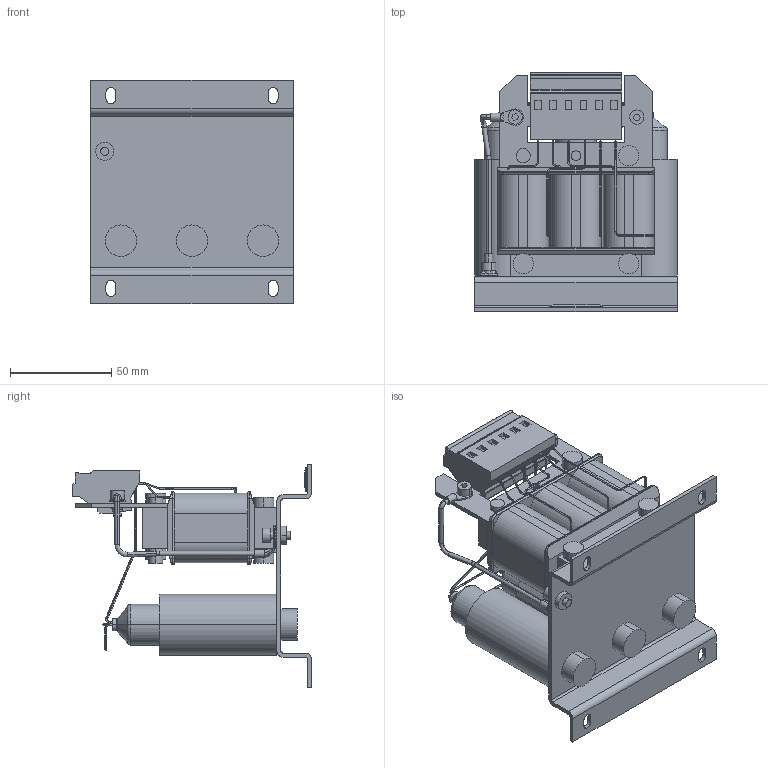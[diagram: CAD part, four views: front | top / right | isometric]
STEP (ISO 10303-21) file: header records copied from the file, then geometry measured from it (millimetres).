
FILE_DESCRIPTION (( 'STEP AP214' ), '1' );
FILE_NAME ('00Z1GX4-0105.STEP', '2023-03-21T12:47:21', ( '' ), ( '' ), 'SwSTEP 2.0', 'SolidWorks 2022', '' );
FILE_SCHEMA (( 'AUTOMOTIVE_DESIGN' ));
Length unit declared in the file: millimetre
Products named in the file (1): 00Z1GX4-0105
Bounding box: 100 x 117.7 x 110 mm (x, y, z)
Volume: 335981.5 mm3; surface area: 81205.6 mm2
Topology: 1 solids, 1 shells, 661 faces, 1702 edges, 1080 vertices
Faces by surface type: plane 251, cylinder 249, torus 103, bspline 42, cone 16
Entity records: 23544 total; most frequent: CARTESIAN_POINT 7143, DIRECTION 3404, ORIENTED_EDGE 3404, EDGE_CURVE 1702, AXIS2_PLACEMENT_3D 1315, VERTEX_POINT 1080, LINE 774, VECTOR 774
